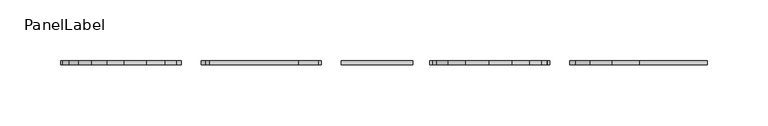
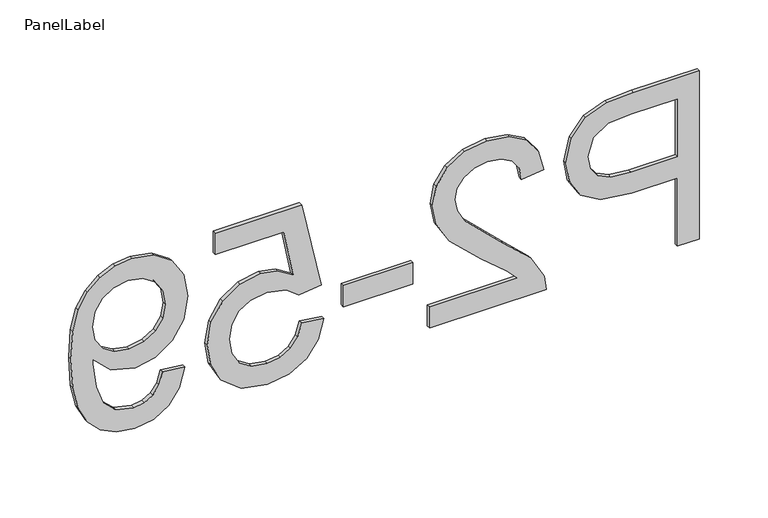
"""IFC4 building model written with IfcOpenShell, lengths in millimetres: fastener geometry, PanelLabel : Miranda."""

from ifc_helpers import new_model, si_unit, frame, origin, place, context, project, spatial, polyline, outline, extrude, source, transform, mapped, element, save


def panellabel_082cf68f(model_context):
    return source(origin(), model_context, "Body", "SweptSolid", [
        extrude(outline(polyline([(1310.9113766, 260.2523077), (1460.9667612, 260.2523077), (1460.9667612, 204.6409615), (1459.5380112, 182.2205769), (1452.5224823, 163.9948558), (1438.0151747, 152.1801923), (1417.554742, 147.7107692), (1399.8693814, 150.7285457), (1385.1331073, 159.781875), (1375.1868093, 176.7116466), (1371.8713766, 203.35875), (1371.8713766, 241.4953846), (1310.9113766, 241.4953846), (1310.9113766, 260.2523077)]), holes=[polyline([(1390.6282997, 241.4953846), (1390.6282997, 202.2597115), (1392.3501266, 185.6275962), (1397.5156073, 174.6372115), (1405.8041891, 168.5100721), (1416.8953189, 166.4676923), (1432.4283958, 171.2851442), (1440.9276266, 183.9424038), (1442.2098381, 202.6993269), (1442.2098381, 241.4953846), (1390.6282997, 241.4953846)])]), frame((0.0, 60.325, 0.0), z_axis=(0.0, 1.0, 0.0), x_axis=(0.0, 0.0, 1.0)), (0.0, 0.0, 1.0), 3.175),
        extrude(outline(polyline([(1329.6682997, 32.8246154), (1310.9113766, 32.8246154), (1310.9113766, 131.2984615), (1323.8433958, 129.2835577), (1343.7543093, 117.8901923), (1365.4969535, 94.4074038), (1396.7462804, 62.0224038), (1407.5168573, 55.9502163), (1417.9943573, 53.9261538), (1427.3865569, 55.8357332), (1435.1943093, 61.5644712), (1440.4559559, 70.3705168), (1442.2098381, 81.5120192), (1440.4971698, 93.2121995), (1435.359165, 102.3021635), (1427.1988045, 108.1682813), (1416.4190689, 110.1969231), (1418.7636843, 128.9538462), (1436.9069775, 124.4065745), (1450.1595497, 114.5747596), (1458.2649583, 99.9712861), (1460.9667612, 81.1090385), (1457.9627227, 62.1094111), (1448.9506073, 47.5334135), (1435.4873862, 38.2602764), (1419.1300304, 35.1692308), (1401.3439247, 38.5029808), (1382.9533477, 49.5849519), (1357.254165, 76.4564423), (1339.211617, 98.0342308), (1329.6682997, 106.4968269), (1329.6682997, 32.8246154)])), frame((0.0, 60.325, 0.0), z_axis=(0.0, 1.0, 0.0), x_axis=(0.0, 0.0, 1.0)), (0.0, 0.0, 1.0), 3.175),
        extrude(outline(polyline([(-39.8584615, 63.5), (18.7569231, 63.5), (18.7569231, 60.325), (-39.8584615, 60.325), (-39.8584615, 63.5)])), frame((0.0, 0.0, 1355.4590689), z_axis=(0.0, 0.0, 1.0), x_axis=(1.0, 0.0, 0.0)), (0.0, 0.0, 1.0), 18.7569231),
        extrude(outline(polyline([(1350.7698381, -56.2707692), (1353.1144535, -75.0276923), (1341.8538886, -78.4713462), (1333.7896939, -84.4794231), (1328.9401867, -93.0244471), (1327.3236843, -104.0789423), (1329.5721338, -117.5238462), (1336.3174823, -127.5983654), (1346.7812444, -133.8903606), (1360.1849343, -135.9876923), (1372.8055593, -134.0231611), (1382.4587804, -128.1295673), (1388.5859198, -118.2611178), (1390.6282997, -104.3720192), (1387.3678189, -87.9047596), (1378.9052227, -77.3723077), (1381.2498381, -58.6153846), (1458.6221458, -75.0276923), (1458.6221458, -147.7107692), (1439.8652227, -147.7107692), (1439.8652227, -90.1944231), (1398.5413766, -82.1714423), (1406.6742612, -95.5705529), (1409.3852227, -109.6107692), (1406.0239968, -127.1358534), (1395.9403189, -141.684375), (1380.5720977, -151.4795553), (1361.357242, -154.7446154), (1342.6003189, -151.8046875), (1326.5543573, -142.9849038), (1313.0636602, -126.0963462), (1308.5667612, -104.0056731), (1311.4563165, -85.5830409), (1320.1249823, -70.9062981), (1333.5653069, -60.8455168), (1350.7698381, -56.2707692)])), frame((0.0, 60.325, 0.0), z_axis=(0.0, 1.0, 0.0), x_axis=(0.0, 0.0, 1.0)), (0.0, 0.0, 1.0), 3.175),
        extrude(outline(polyline([(1348.4252227, -173.5015385), (1350.7698381, -192.2584615), (1340.122903, -195.4639904), (1332.8738285, -200.6844231), (1328.7112203, -207.7915385), (1327.3236843, -216.6571154), (1330.8955593, -231.8421635), (1340.4388766, -242.1364904), (1356.7412804, -248.2727885), (1378.502242, -250.98375), (1382.1657035, -250.8738462), (1367.9514727, -235.8719712), (1362.492915, -215.3016346), (1365.826665, -198.1978486), (1375.827915, -183.9607212), (1391.2785641, -174.3578726), (1410.9605112, -171.1569231), (1431.2927227, -174.5135697), (1447.2287804, -184.5835096), (1457.532266, -199.7090264), (1460.9667612, -218.2324038), (1459.0068093, -232.2222476), (1453.1269535, -244.9573558), (1443.6202708, -255.6088702), (1430.7798381, -263.3479327), (1413.030367, -268.0600601), (1388.7965689, -269.6307692), (1363.1019655, -268.0646394), (1343.2414247, -263.36625), (1328.3173982, -255.5768149), (1317.4323381, -244.7375481), (1310.7831554, -231.3155409), (1308.5667612, -215.7778846), (1311.1815569, -199.7410817), (1319.0259439, -186.9464423), (1331.6053549, -177.9984375), (1348.4252227, -173.5015385)]), holes=[polyline([(1411.4001266, -250.8738462), (1424.1123381, -248.8497837), (1433.8937804, -242.7775962), (1440.1308237, -233.3533413), (1442.2098381, -221.2730769), (1439.9705472, -208.7440385), (1433.2526747, -198.7061538), (1422.9720857, -192.1119231), (1410.0446458, -189.9138462), (1398.4543694, -191.9928606), (1389.2545016, -198.2299038), (1383.251004, -208.0205048), (1381.2498381, -220.7601923), (1383.251004, -232.7442909), (1389.2545016, -242.3929327), (1398.7932396, -248.7536178), (1411.4001266, -250.8738462)])]), frame((0.0, 60.325, 0.0), z_axis=(0.0, 1.0, 0.0), x_axis=(0.0, 0.0, 1.0)), (0.0, 0.0, 1.0), 3.175),
    ])


if __name__ == "__main__":
    model = new_model("IFC4")
    model_context = context("Model", 3, world=origin())
    ifc_project = project(units=[si_unit("LENGTHUNIT", "METRE", prefix="MILLI")], contexts=[model_context])
    site = spatial("IfcSite", under=ifc_project)
    building = spatial("IfcBuilding", under=site)
    placement = place(None, origin())
    panellabel_shape = panellabel_082cf68f(model_context)
    element("IfcFastener", 1, ObjectType="PanelLabel : Miranda", at=placement, inside=building, context=model_context, shape_type="MappedRepresentation", body=[
        mapped(panellabel_shape, transform((0.0, 0.0, 0.0), x_axis=(1.0, 0.0, 0.0), y_axis=(0.0, 1.0, 0.0), z_axis=(0.0, 0.0, 1.0))),
    ])
    save(model, "model.ifc")
